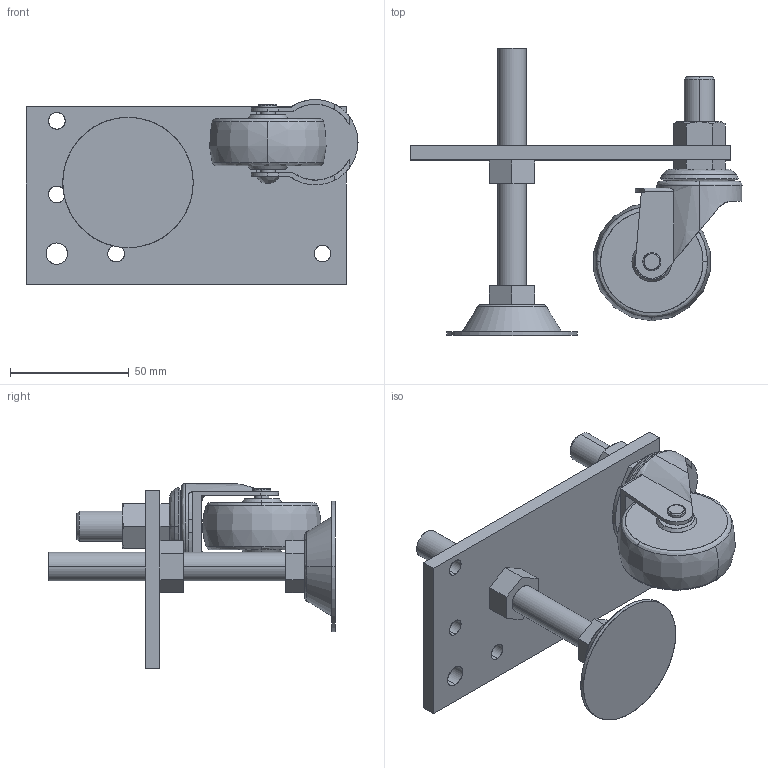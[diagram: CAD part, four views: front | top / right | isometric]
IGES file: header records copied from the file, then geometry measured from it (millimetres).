
Start section: SolidWorks IGES file using analytic representation for surfaces
Global section: file name: C:\Documents and Settings\Administrator\デスクトップ\7回目指定保存後\SolidWorks\SF\SF30\Parts\アジャスタ\SFK-504A.IGS; native system: SolidWorks 2006 by SolidWorks Corporation; preprocessor: SolidWorks 2006 by SolidWorks Corporation; author: Administrator; date: 061222.161650; units: millimetre
Bounding box: 140 x 121 x 78 mm (x, y, z)
Surface area: 51535.7 mm2 (no closed solid volume)
Topology: 0 solids, 0 shells, 152 faces, 4102 edges, 4820 vertices
Faces by surface type: bspline 79, revolution 73
